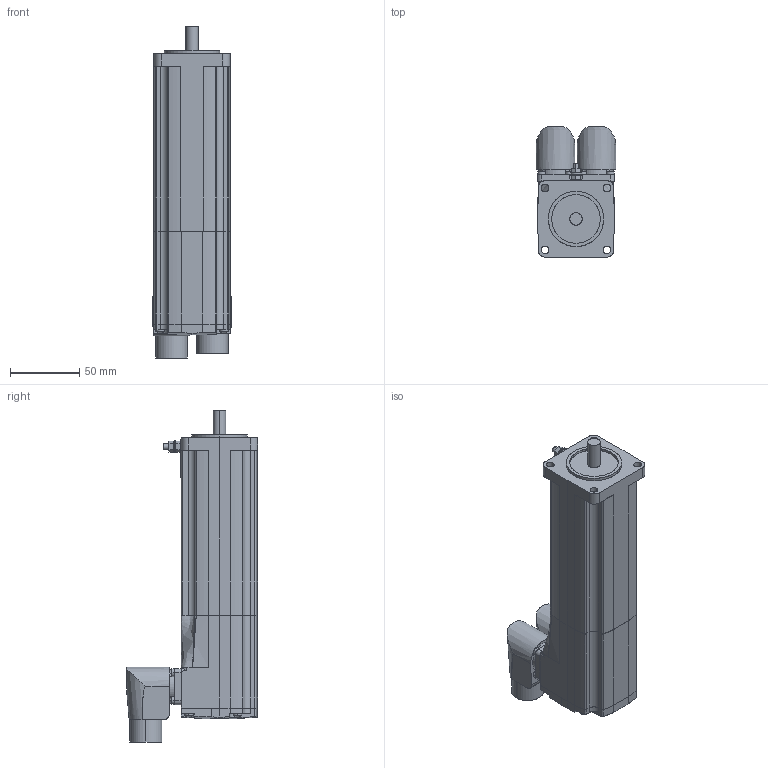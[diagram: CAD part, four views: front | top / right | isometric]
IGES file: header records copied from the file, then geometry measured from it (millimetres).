
Start section: SolidWorks IGES file using analytic representation for surfaces
Global section: file name: C:\PDM\SW-SAP\AA-IGES\SH30553x0xF2100.IGS; native system: SolidWorks 2010; preprocessor: SolidWorks 2010; author: SESA21951; date: 131129.082553; units: millimetre
Bounding box: 57.5 x 94.5 x 239.45 mm (x, y, z)
Surface area: 76638.1 mm2 (no closed solid volume)
Topology: 0 solids, 0 shells, 400 faces, 6040 edges, 6038 vertices
Faces by surface type: revolution 202, bspline 198
